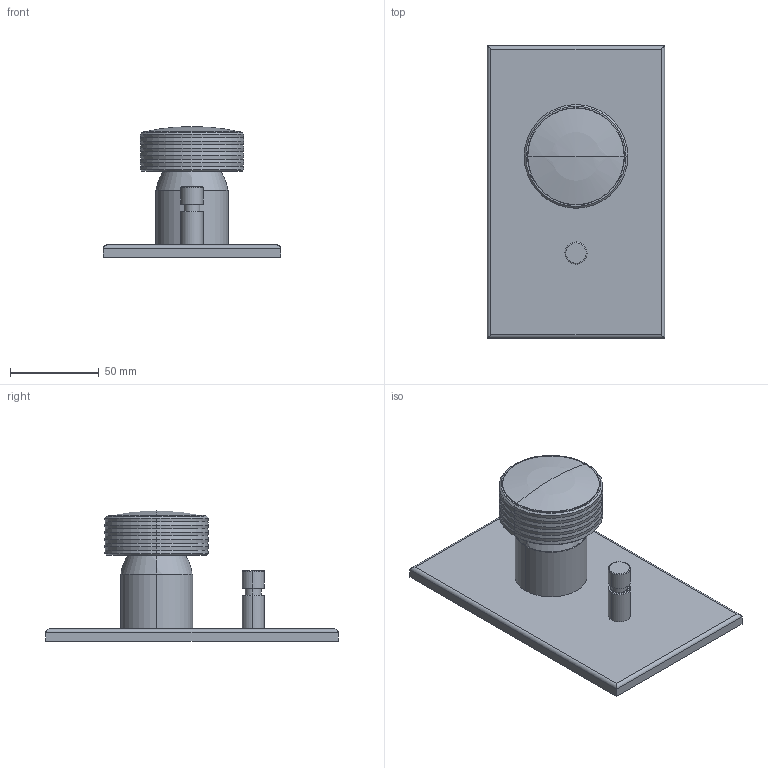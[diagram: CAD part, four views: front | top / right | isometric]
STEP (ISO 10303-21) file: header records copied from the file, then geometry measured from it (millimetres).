
FILE_DESCRIPTION((''),'2;1');
FILE_NAME('F5609X2_FILE_3D','2015-04-24T',('ivanv'),(''),'PRO/ENGINEER BY PARAMETRIC TECHNOLOGY CORPORATION, 2012130','PRO/ENGINEER BY PARAMETRIC TECHNOLOGY CORPORATION, 2012130','');
FILE_SCHEMA(('CONFIG_CONTROL_DESIGN'));
Length unit declared in the file: millimetre
Products named in the file (1): F5609X2_FILE_3D
Bounding box: 100 x 165 x 73.8 mm (x, y, z)
Volume: 233214.3 mm3; surface area: 51260 mm2
Topology: 1 solids, 3 shells, 88 faces, 178 edges, 103 vertices
Faces by surface type: cone 32, cylinder 26, plane 18, torus 8, sphere 2, bspline 2
Entity records: 2402 total; most frequent: CARTESIAN_POINT 465, DIRECTION 446, ORIENTED_EDGE 352, AXIS2_PLACEMENT_3D 188, EDGE_CURVE 176, VERTEX_POINT 103, CIRCLE 102, EDGE_LOOP 101
